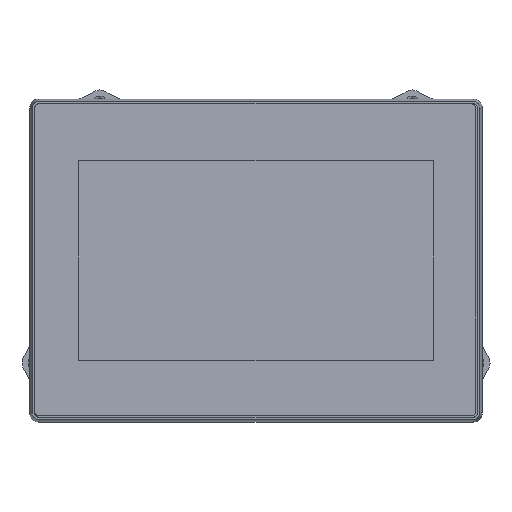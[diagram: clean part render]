
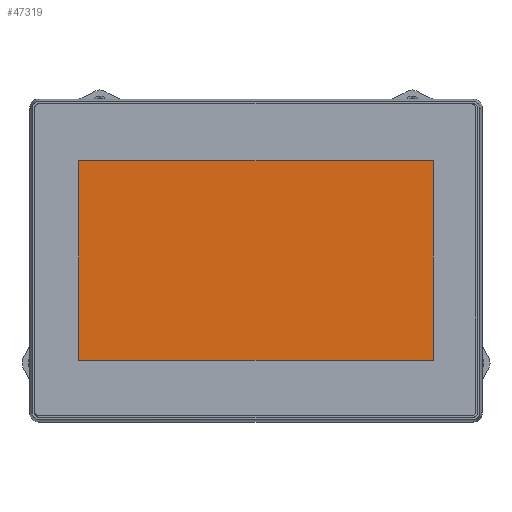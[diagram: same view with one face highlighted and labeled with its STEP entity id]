
A CAD part, top view. The second image highlights one B-rep face of the part: STEP entity #47319.
In plain terms, the highlighted planar face has unit normal (0, 0, 1).
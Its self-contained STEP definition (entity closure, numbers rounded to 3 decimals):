
#17765=DIRECTION('',(1.,0.,0.));
#17766=VECTOR('',#17765,155.7);
#17767=CARTESIAN_POINT('',(-77.85,-43.85,5.738));
#17768=LINE('',#17767,#17766);
#17769=DIRECTION('',(0.,-1.,0.));
#17770=VECTOR('',#17769,87.7);
#17771=CARTESIAN_POINT('',(-77.85,43.85,5.738));
#17772=LINE('',#17771,#17770);
#17773=DIRECTION('',(-1.,0.,0.));
#17774=VECTOR('',#17773,155.7);
#17775=CARTESIAN_POINT('',(77.85,43.85,5.738));
#17776=LINE('',#17775,#17774);
#17777=DIRECTION('',(0.,1.,0.));
#17778=VECTOR('',#17777,87.7);
#17779=CARTESIAN_POINT('',(77.85,-43.85,5.738));
#17780=LINE('',#17779,#17778);
#21901=CARTESIAN_POINT('',(-77.85,-43.85,5.738));
#21902=CARTESIAN_POINT('',(77.85,-43.85,5.738));
#21903=VERTEX_POINT('',#21901);
#21904=VERTEX_POINT('',#21902);
#21905=CARTESIAN_POINT('',(77.85,43.85,5.738));
#21906=VERTEX_POINT('',#21905);
#21907=CARTESIAN_POINT('',(-77.85,43.85,5.738));
#21908=VERTEX_POINT('',#21907);
#47308=CARTESIAN_POINT('',(0.,0.,5.738));
#47309=DIRECTION('',(0.,0.,1.));
#47310=DIRECTION('',(1.,0.,0.));
#47311=AXIS2_PLACEMENT_3D('',#47308,#47309,#47310);
#47312=PLANE('',#47311);
#47313=ORIENTED_EDGE('',*,*,#47260,.F.);
#47314=ORIENTED_EDGE('',*,*,#47275,.F.);
#47315=ORIENTED_EDGE('',*,*,#47289,.F.);
#47316=ORIENTED_EDGE('',*,*,#47302,.F.);
#47317=EDGE_LOOP('',(#47313,#47314,#47315,#47316));
#47318=FACE_OUTER_BOUND('',#47317,.F.);
#47319=ADVANCED_FACE('',(#47318),#47312,.T.);
#47260=EDGE_CURVE('',#21903,#21904,#17768,.T.);
#47275=EDGE_CURVE('',#21908,#21903,#17772,.T.);
#47289=EDGE_CURVE('',#21906,#21908,#17776,.T.);
#47302=EDGE_CURVE('',#21904,#21906,#17780,.T.);
